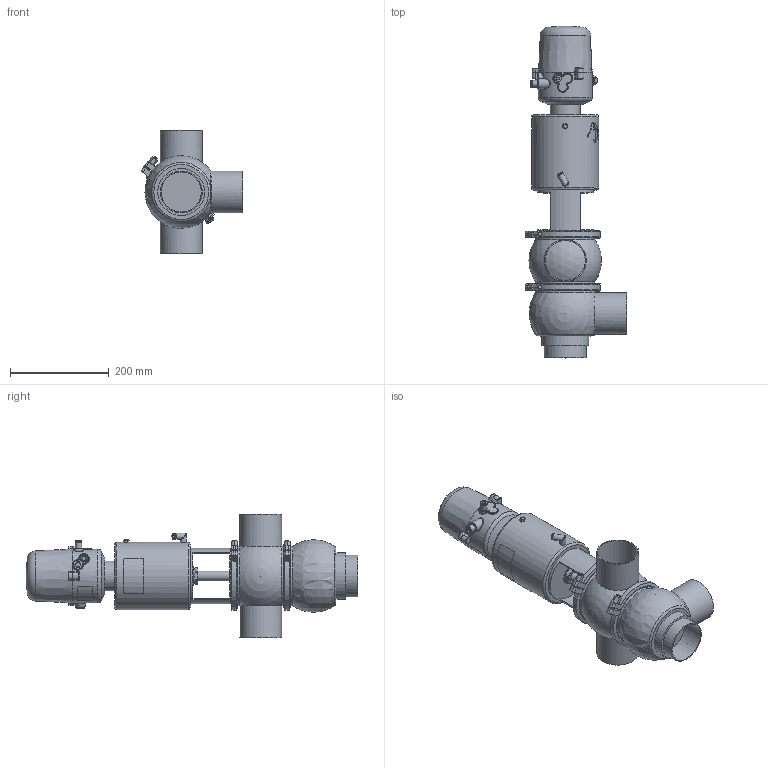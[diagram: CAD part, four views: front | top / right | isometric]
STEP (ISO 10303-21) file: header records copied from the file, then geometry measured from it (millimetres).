
FILE_DESCRIPTION (( 'STEP AP214' ), '1' );
FILE_NAME ('INNOVA K E W DIN 080 T3 AS NC & C-TOP S_10.240.16.0076.STEP', '2024-08-06T09:17:28', ( '' ), ( '' ), 'SwSTEP 2.0', 'SolidWorks 2023', '' );
FILE_SCHEMA (( 'AUTOMOTIVE_DESIGN' ));
Length unit declared in the file: millimetre
Products named in the file (8): 10.240.15.0017_Estàndard; 10.240.15.0010_DN 080; 10.426.15.0001_C-TOP S - 1 EV; 10.240.15.0001_DN 080; 10.240.15.0002_DIN 080; 10.240.15.0007_DIN 080; 10.240.15.0014_T3 AS P0; INNOVA K E W DIN 080 T3 AS NC & C-TOP S_10.240.16.0076
Assembly tree (8 placements, depth 2):
  INNOVA K E W DIN 080 T3 AS NC & C-TOP S_10.240.16.0076
    10.240.15.0007_DIN 080
    10.240.15.0002_DIN 080
    10.240.15.0010_DN 080
    10.240.15.0014_T3 AS P0
    10.240.15.0017_Estàndard
    10.426.15.0001_C-TOP S - 1 EV
    10.240.15.0001_DN 080  x2
Bounding box: 206.43 x 672 x 250 mm (x, y, z)
Volume: 7102764.1 mm3; surface area: 579481.7 mm2
Topology: 8 solids, 8 shells, 1177 faces, 2858 edges, 1903 vertices
Faces by surface type: plane 411, cylinder 358, cone 201, bspline 160, torus 37, sphere 10
Full cylindrical faces by diameter (mm): 0.371 x17, 0.512 x16, 0.658 x16, 0.795 x16, 0.94 x15, 1.098 x15, 1.241 x13, 1.382 x13, 1.523 x11, 1.669 x10, 2.201 x1, 4 x2, 5.5 x2, 6 x2, 6.15 x1, 8 x6, 8.5 x1, 10 x1, 10.5 x1, 11 x2, 12.5 x3, 13 x2, 13.5 x2, 16 x1, 17 x3, 20 x3, 20.5 x1, 22 x2, 31 x1, 34.5 x3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
Entity records: 58223 total; most frequent: CARTESIAN_POINT 27899, ORIENTED_EDGE 4538, DIRECTION 3675, EDGE_CURVE 2269, VERTEX_POINT 1614, EDGE_LOOP 1575, AXIS2_PLACEMENT_3D 1509, FACE_OUTER_BOUND 1336
